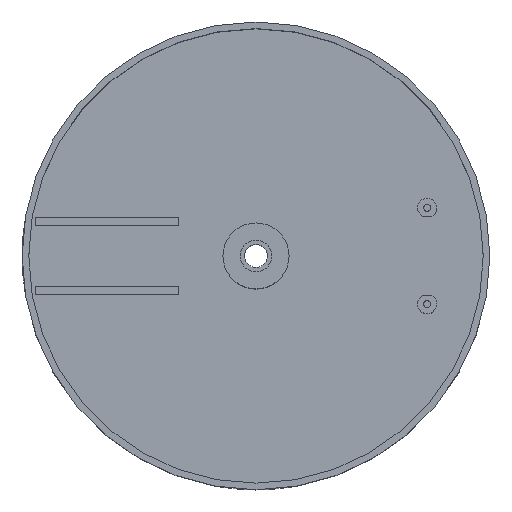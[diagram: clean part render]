
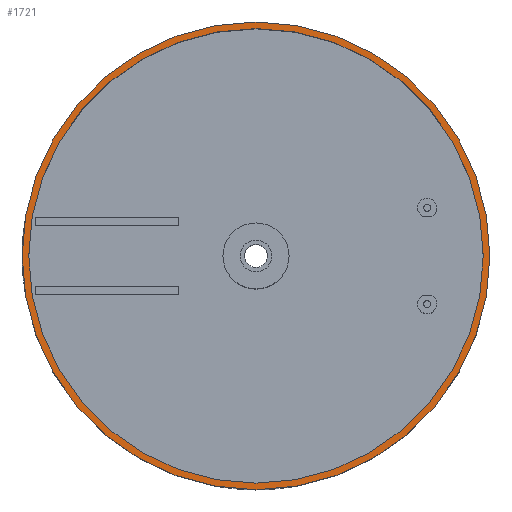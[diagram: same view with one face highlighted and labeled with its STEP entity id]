
A CAD part, top view. The second image highlights one B-rep face of the part: STEP entity #1721.
In plain terms, the highlighted planar face has unit normal (0, 0, 1).
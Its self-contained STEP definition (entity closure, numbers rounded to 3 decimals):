
#171 = CYLINDRICAL_SURFACE('',#172,82.6);
#172 = AXIS2_PLACEMENT_3D('',#173,#174,#175);
#173 = CARTESIAN_POINT('',(0.,0.,2.4));
#174 = DIRECTION('',(0.,0.,1.));
#175 = DIRECTION('',(1.,0.,-0.));
#661 = VERTEX_POINT('',#662);
#662 = CARTESIAN_POINT('',(82.6,0.,56.));
#683 = EDGE_CURVE('',#661,#661,#684,.T.);
#684 = SURFACE_CURVE('',#685,(#690,#697),.PCURVE_S1.);
#685 = CIRCLE('',#686,82.6);
#686 = AXIS2_PLACEMENT_3D('',#687,#688,#689);
#687 = CARTESIAN_POINT('',(0.,0.,56.));
#688 = DIRECTION('',(0.,0.,1.));
#689 = DIRECTION('',(1.,0.,-0.));
#690 = PCURVE('',#171,#691);
#691 = DEFINITIONAL_REPRESENTATION('',(#692),#696);
#692 = LINE('',#693,#694);
#693 = CARTESIAN_POINT('',(0.,53.6));
#694 = VECTOR('',#695,1.);
#695 = DIRECTION('',(1.,0.));
#696 = ( GEOMETRIC_REPRESENTATION_CONTEXT(2) 
PARAMETRIC_REPRESENTATION_CONTEXT() REPRESENTATION_CONTEXT('2D SPACE',''
  ) );
#697 = PCURVE('',#698,#703);
#698 = PLANE('',#699);
#699 = AXIS2_PLACEMENT_3D('',#700,#701,#702);
#700 = CARTESIAN_POINT('',(0.,0.,56.));
#701 = DIRECTION('',(0.,0.,1.));
#702 = DIRECTION('',(1.,0.,-0.));
#703 = DEFINITIONAL_REPRESENTATION('',(#704),#708);
#704 = CIRCLE('',#705,82.6);
#705 = AXIS2_PLACEMENT_2D('',#706,#707);
#706 = CARTESIAN_POINT('',(0.,0.));
#707 = DIRECTION('',(1.,0.));
#708 = ( GEOMETRIC_REPRESENTATION_CONTEXT(2) 
PARAMETRIC_REPRESENTATION_CONTEXT() REPRESENTATION_CONTEXT('2D SPACE',''
  ) );
#1721 = ADVANCED_FACE('',(#1722,#1753),#698,.T.);
#1722 = FACE_BOUND('',#1723,.T.);
#1723 = EDGE_LOOP('',(#1724));
#1724 = ORIENTED_EDGE('',*,*,#1725,.T.);
#1725 = EDGE_CURVE('',#1726,#1726,#1728,.T.);
#1726 = VERTEX_POINT('',#1727);
#1727 = CARTESIAN_POINT('',(85.,0.,56.));
#1728 = SURFACE_CURVE('',#1729,(#1734,#1741),.PCURVE_S1.);
#1729 = CIRCLE('',#1730,85.);
#1730 = AXIS2_PLACEMENT_3D('',#1731,#1732,#1733);
#1731 = CARTESIAN_POINT('',(0.,0.,56.));
#1732 = DIRECTION('',(0.,0.,1.));
#1733 = DIRECTION('',(1.,0.,-0.));
#1734 = PCURVE('',#698,#1735);
#1735 = DEFINITIONAL_REPRESENTATION('',(#1736),#1740);
#1736 = CIRCLE('',#1737,85.);
#1737 = AXIS2_PLACEMENT_2D('',#1738,#1739);
#1738 = CARTESIAN_POINT('',(0.,0.));
#1739 = DIRECTION('',(1.,0.));
#1740 = ( GEOMETRIC_REPRESENTATION_CONTEXT(2) 
PARAMETRIC_REPRESENTATION_CONTEXT() REPRESENTATION_CONTEXT('2D SPACE',''
  ) );
#1741 = PCURVE('',#1742,#1747);
#1742 = CYLINDRICAL_SURFACE('',#1743,85.);
#1743 = AXIS2_PLACEMENT_3D('',#1744,#1745,#1746);
#1744 = CARTESIAN_POINT('',(0.,0.,0.));
#1745 = DIRECTION('',(0.,0.,1.));
#1746 = DIRECTION('',(1.,0.,-0.));
#1747 = DEFINITIONAL_REPRESENTATION('',(#1748),#1752);
#1748 = LINE('',#1749,#1750);
#1749 = CARTESIAN_POINT('',(0.,56.));
#1750 = VECTOR('',#1751,1.);
#1751 = DIRECTION('',(1.,0.));
#1752 = ( GEOMETRIC_REPRESENTATION_CONTEXT(2) 
PARAMETRIC_REPRESENTATION_CONTEXT() REPRESENTATION_CONTEXT('2D SPACE',''
  ) );
#1753 = FACE_BOUND('',#1754,.T.);
#1754 = EDGE_LOOP('',(#1755));
#1755 = ORIENTED_EDGE('',*,*,#683,.F.);
